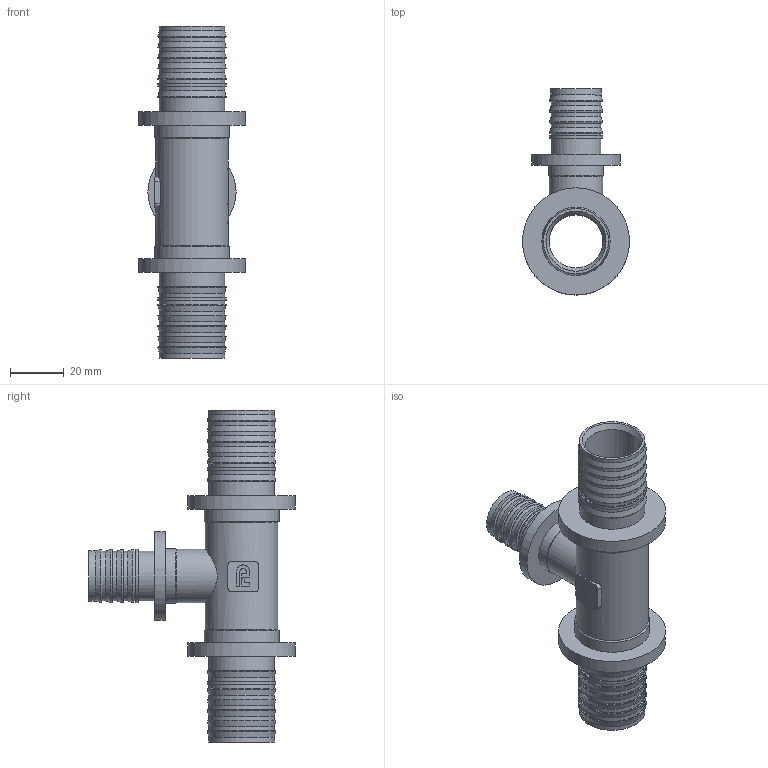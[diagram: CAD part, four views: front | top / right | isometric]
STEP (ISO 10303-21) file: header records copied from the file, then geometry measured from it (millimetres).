
FILE_DESCRIPTION(/* description */ (''),/* implementation_level */ '2;1');
FILE_NAME(/* name */ 'C:\Users\Doom\Desktop\Фадотех\Натяжка\SFT16_NEW 32x32x25 19.08.2020\SFT16_NEW 32x32x25 19.08.2020.stp',/* time_stamp */ '2022-07-25T23:04:20+03:00',/* author */ ('Doom'),/* organization */ (''),/* preprocessor_version */ 'ST-DEVELOPER v18',/* originating_system */ 'Autodesk Inventor 2020',/* authorisation */ '');
FILE_SCHEMA (('AUTOMOTIVE_DESIGN { 1 0 10303 214 3 1 1 }'));
Length unit declared in the file: millimetre
Products named in the file (1): SFT04_NEW 32 29.05.2020
Bounding box: 40 x 77 x 124 mm (x, y, z)
Volume: 40566.4 mm3; surface area: 28223.5 mm2
Topology: 1 solids, 1 shells, 290 faces, 820 edges, 572 vertices
Faces by surface type: bspline 116, plane 93, cylinder 43, cone 22, torus 16
Full cylindrical faces by diameter (mm): 14.7 x1, 18.556 x3, 18.626 x2, 18.7 x1, 19.9 x1, 20 x2, 20.5 x1, 24.38 x4, 24.4 x12, 25.5 x2, 27 x1, 28 x2, 33 x1, 40 x2
Entity records: 12295 total; most frequent: CARTESIAN_POINT 5171, ORIENTED_EDGE 1640, DIRECTION 1212, EDGE_CURVE 820, VERTEX_POINT 572, AXIS2_PLACEMENT_3D 453, EDGE_LOOP 334, LINE 306
